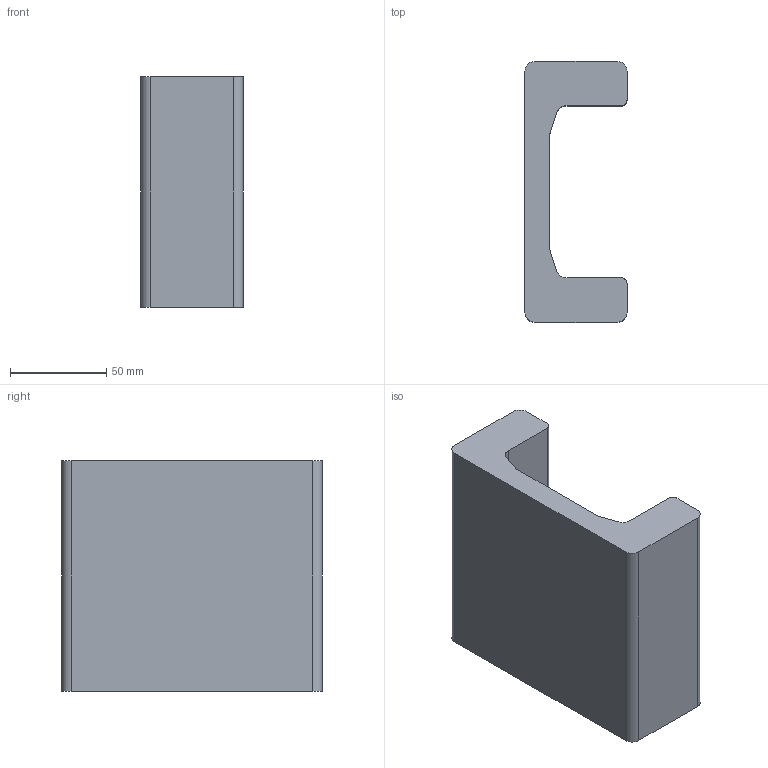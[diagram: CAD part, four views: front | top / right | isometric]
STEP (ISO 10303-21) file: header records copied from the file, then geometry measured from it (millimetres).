
FILE_DESCRIPTION (( 'STEP AP214' ), '1' );
FILE_NAME ('3D5.2811.STEP', '2013-12-17T07:03:22', ( 'usuario' ), ( 'Hewlett-Packard Company' ), 'SwSTEP 2.0', 'SolidWorks 2017', '' );
FILE_SCHEMA (( 'AUTOMOTIVE_DESIGN' ));
Length unit declared in the file: millimetre
Products named in the file (1): 3D5.2811
Bounding box: 53 x 135.4 x 120 mm (x, y, z)
Volume: 435344.3 mm3; surface area: 59568.4 mm2
Topology: 1 solids, 1 shells, 20 faces, 54 edges, 36 vertices
Faces by surface type: plane 12, cylinder 8
Entity records: 668 total; most frequent: DIRECTION 112, CARTESIAN_POINT 111, ORIENTED_EDGE 108, EDGE_CURVE 54, VECTOR 38, LINE 38, AXIS2_PLACEMENT_3D 37, VERTEX_POINT 36
